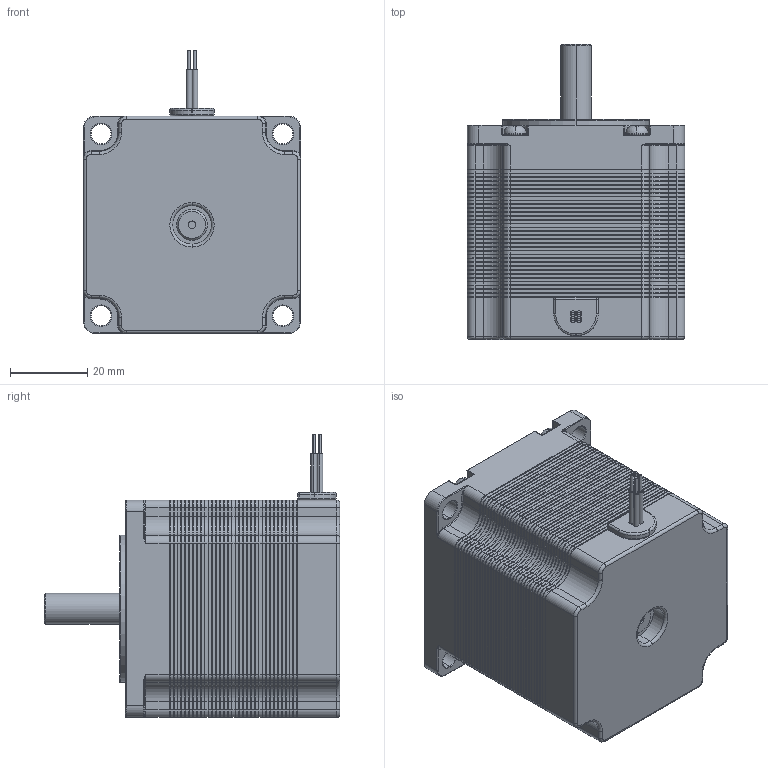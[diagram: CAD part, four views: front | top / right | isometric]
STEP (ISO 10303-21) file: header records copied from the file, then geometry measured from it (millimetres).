
FILE_DESCRIPTION (( 'STEP AP214' ), '1' );
FILE_NAME ('Nema 23 Stepper Motor length 56mm.STEP', '2017-12-10T23:28:36', ( '' ), ( '' ), 'SwSTEP 2.0', 'SolidWorks 2016', '' );
FILE_SCHEMA (( 'AUTOMOTIVE_DESIGN' ));
Length unit declared in the file: millimetre
Products named in the file (1): Nema 23 Stepper Motor length 56mm
Bounding box: 56.3 x 76.5 x 73.3 mm (x, y, z)
Volume: 161601.2 mm3; surface area: 213114.7 mm2
Topology: 49 solids, 49 shells, 2916 faces, 6632 edges, 3800 vertices
Faces by surface type: plane 1424, cone 820, cylinder 558, torus 94, sphere 12, bspline 8
Entity records: 107666 total; most frequent: DIRECTION 14440, CARTESIAN_POINT 13777, ORIENTED_EDGE 13224, EDGE_CURVE 6612, AXIS2_PLACEMENT_3D 4991, VECTOR 4458, LINE 4458, VERTEX_POINT 3800
